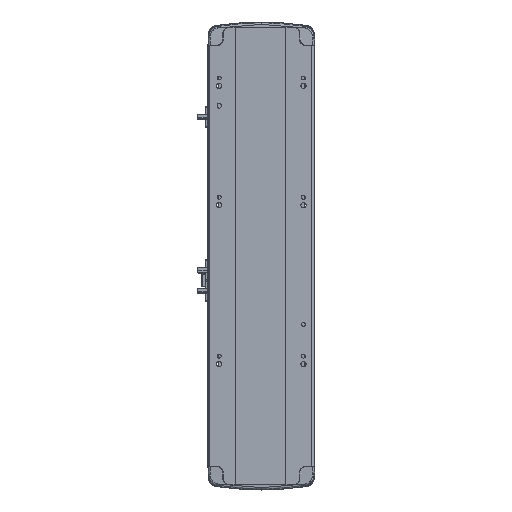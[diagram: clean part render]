
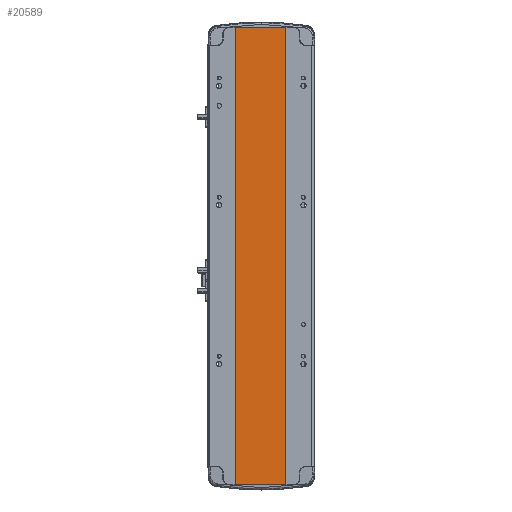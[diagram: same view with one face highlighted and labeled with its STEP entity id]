
A CAD part, front view. The second image highlights one B-rep face of the part: STEP entity #20589.
In plain terms, the highlighted planar face has unit normal (0, -1, 0).
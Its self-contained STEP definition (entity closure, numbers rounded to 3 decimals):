
#117 = CARTESIAN_POINT ( 'NONE',  ( 30., 1., 576. ) ) ;
#2558 = LINE ( 'NONE', #21958, #5908 ) ;
#3015 = VECTOR ( 'NONE', #5129, 1000. ) ;
#4317 = VERTEX_POINT ( 'NONE', #18283 ) ;
#5129 = DIRECTION ( 'NONE',  ( 0., 0., -1. ) ) ;
#5908 = VECTOR ( 'NONE', #25502, 1000. ) ;
#8460 = DIRECTION ( 'NONE',  ( -1., 0., 0. ) ) ;
#8600 = PLANE ( 'NONE',  #14877 ) ;
#9733 = CARTESIAN_POINT ( 'NONE',  ( 30., 1., 0. ) ) ;
#11943 = LINE ( 'NONE', #20677, #16339 ) ;
#13026 = FACE_OUTER_BOUND ( 'NONE', #28457, .T. ) ;
#13940 = ORIENTED_EDGE ( 'NONE', *, *, #36421, .F. ) ;
#14454 = EDGE_CURVE ( 'NONE', #25446, #41912, #34333, .T. ) ;
#14877 = AXIS2_PLACEMENT_3D ( 'NONE', #29632, #37008, #8460 ) ;
#16339 = VECTOR ( 'NONE', #41946, 1000. ) ;
#16382 = ORIENTED_EDGE ( 'NONE', *, *, #21805, .T. ) ;
#18283 = CARTESIAN_POINT ( 'NONE',  ( -32., 1., 0. ) ) ;
#18633 = CARTESIAN_POINT ( 'NONE',  ( 30., 1., 576. ) ) ;
#20452 = ORIENTED_EDGE ( 'NONE', *, *, #14454, .F. ) ;
#20528 = DIRECTION ( 'NONE',  ( 1., 0., 0. ) ) ;
#20589 = ADVANCED_FACE ( 'NONE', ( #13026 ), #8600, .F. ) ;
#20677 = CARTESIAN_POINT ( 'NONE',  ( -32., 1., 0. ) ) ;
#21805 = EDGE_CURVE ( 'NONE', #25446, #4317, #2558, .T. ) ;
#21958 = CARTESIAN_POINT ( 'NONE',  ( -32., 1., 576. ) ) ;
#24987 = VECTOR ( 'NONE', #20528, 1000. ) ;
#25446 = VERTEX_POINT ( 'NONE', #42223 ) ;
#25502 = DIRECTION ( 'NONE',  ( 0., 0., -1. ) ) ;
#27374 = ORIENTED_EDGE ( 'NONE', *, *, #30545, .T. ) ;
#28457 = EDGE_LOOP ( 'NONE', ( #27374, #13940, #20452, #16382 ) ) ;
#29632 = CARTESIAN_POINT ( 'NONE',  ( -32., 1., 576. ) ) ;
#30545 = EDGE_CURVE ( 'NONE', #4317, #35196, #11943, .T. ) ;
#32704 = LINE ( 'NONE', #18633, #3015 ) ;
#34333 = LINE ( 'NONE', #41482, #24987 ) ;
#35196 = VERTEX_POINT ( 'NONE', #9733 ) ;
#36421 = EDGE_CURVE ( 'NONE', #41912, #35196, #32704, .T. ) ;
#37008 = DIRECTION ( 'NONE',  ( 0., 1., 0. ) ) ;
#41482 = CARTESIAN_POINT ( 'NONE',  ( -32., 1., 576. ) ) ;
#41912 = VERTEX_POINT ( 'NONE', #117 ) ;
#41946 = DIRECTION ( 'NONE',  ( 1., 0., 0. ) ) ;
#42223 = CARTESIAN_POINT ( 'NONE',  ( -32., 1., 576. ) ) ;
